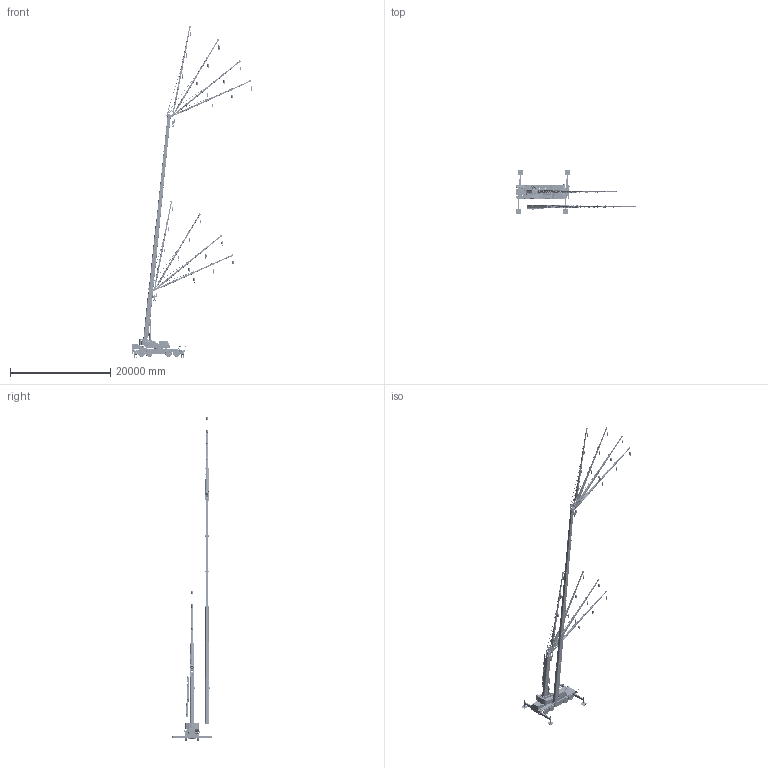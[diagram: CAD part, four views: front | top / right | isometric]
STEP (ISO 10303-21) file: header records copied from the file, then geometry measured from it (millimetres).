
FILE_DESCRIPTION(('CATIA V5 STEP Exchange','CAx-IF Rec.Pracs.--- Model Styling and Organization---1.4--- 2014-01-23'),'2;1');
FILE_NAME('\\Iba001\cad\CR\HP用CADデータ\13A\SL-850Rf3\3D\SL-850Rf3 3D.stp','2025-04-14T03:13:17+00:00',('none'),('none'),'CATIA Version 5-6 Release 2017 SP5 HF78','CATIA V5 STEP AP214','none');
FILE_SCHEMA(('AUTOMOTIVE_DESIGN { 1 0 10303 214 1 1 1 1 }'));
Products named in the file (52): SL-850Rf3 3D; SL-850Rf3 UPPER; SL-850Rf3 UPPER STRUCTURE; SL-850Rf3 TABLE; SL-850Rf3 CAB; SL-850Rf3 MACHINE ROOM; SL-850Rf3 COUNTER WEIGHT; SL-850Rf3 DERRICK CYLINDER-1; SL-850Rf3 DERRICK CYLINDER-2; SL-850Rf3 BOOM JIB Min; SL-850Rf3 BOOM Min; SL-850Rf3 BOOM1; SL-850Rf3 BOOM2; SL-850Rf3 BOOM3; SL-850Rf3 BOOM4; SL-850Rf3 BOOM5; SL-850Rf3 BOOM6; SL-850Rf3 JIB; SL-850Rf3 JIB 9.52m 5deg; SL-850Rf3 JIB1; SL-850Rf3 JIB2; SL-850Rf3 JIB3; SL-850Rf3 JIB4; SL-850Rf3 JIB TENSION ROD; SL-850Rf3 JIB 9.52m 25deg; SL-850Rf3 JIB 9.52m 45deg; SL-850Rf3 JIB 9.52m 60deg; SL-850Rf3 JIB 13.8m 5deg; SL-850Rf3 JIB 13.8m 25deg; SL-850Rf3 JIB 13.8m 45deg; SL-850Rf3 JIB 13.8m 60deg; SL-850Rf3 JIB 18.0m 5deg; SL-850Rf3 JIB 18.0m 25deg; SL-850Rf2 JIB4; SL-850Rf3 JIB 18.0m 45deg; SL-850Rf3 JIB 18.0m 60deg; SL-850Rf3 JIB Stowed; SL-850Rf3 JIB TENSION ROD Stowed; SL-850Rf3 HOOK 5.6t; SL-850Rf3 HOOK 35t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
Assembly tree (151 placements, depth 6):
  SL-850Rf3 3D
    SL-850Rf3 UPPER
      SL-850Rf3 UPPER STRUCTURE
        SL-850Rf3 TABLE
        SL-850Rf3 CAB
        SL-850Rf3 MACHINE ROOM
        SL-850Rf3 COUNTER WEIGHT
        SL-850Rf3 DERRICK CYLINDER-1
        SL-850Rf3 DERRICK CYLINDER-2
      SL-850Rf3 BOOM JIB Min
        SL-850Rf3 BOOM Min
          SL-850Rf3 BOOM1
          SL-850Rf3 BOOM2
          SL-850Rf3 BOOM3
          SL-850Rf3 BOOM4
          SL-850Rf3 BOOM5
          SL-850Rf3 BOOM6
        SL-850Rf3 JIB
          SL-850Rf3 JIB 9.52m 5deg
            SL-850Rf3 JIB1
            SL-850Rf3 JIB2
            SL-850Rf3 JIB3
            SL-850Rf3 JIB4
            SL-850Rf3 JIB TENSION ROD
          SL-850Rf3 JIB 9.52m 25deg
            SL-850Rf3 JIB1
            SL-850Rf3 JIB2
            SL-850Rf3 JIB3
            SL-850Rf3 JIB4
            SL-850Rf3 JIB TENSION ROD
          SL-850Rf3 JIB 9.52m 45deg
            SL-850Rf3 JIB1
            SL-850Rf3 JIB2
            SL-850Rf3 JIB3
            SL-850Rf3 JIB4
            SL-850Rf3 JIB TENSION ROD
          SL-850Rf3 JIB 9.52m 60deg
            SL-850Rf3 JIB1
            SL-850Rf3 JIB2
            SL-850Rf3 JIB3
            SL-850Rf3 JIB4
            SL-850Rf3 JIB TENSION ROD
          SL-850Rf3 JIB 13.8m 5deg
            SL-850Rf3 JIB1
            SL-850Rf3 JIB2
            SL-850Rf3 JIB3
            SL-850Rf3 JIB4
            SL-850Rf3 JIB TENSION ROD
          SL-850Rf3 JIB 13.8m 25deg
            SL-850Rf3 JIB1
            SL-850Rf3 JIB2
            SL-850Rf3 JIB3
            SL-850Rf3 JIB4
            SL-850Rf3 JIB TENSION ROD
          SL-850Rf3 JIB 13.8m 45deg
            SL-850Rf3 JIB1
            SL-850Rf3 JIB2
            SL-850Rf3 JIB3
            SL-850Rf3 JIB4
            SL-850Rf3 JIB TENSION ROD
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Bounding box: 23909.38 x 8600 x 66258.94 mm (x, y, z)
Volume: 120157490292.3 mm3; surface area: 1360170376.5 mm2
Topology: 489 solids, 497 shells, 28256 faces, 76214 edges, 49689 vertices
Faces by surface type: plane 18300, cylinder 6527, extrusion 1959, torus 1146, bspline 205, cone 112, sphere 5, revolution 2
Entity records: 157048 total; most frequent: CARTESIAN_POINT 55581, ORIENTED_EDGE 23036, DIRECTION 16064, EDGE_CURVE 11518, VECTOR 7955, VERTEX_POINT 7510, LINE 7484, AXIS2_PLACEMENT_3D 5077
